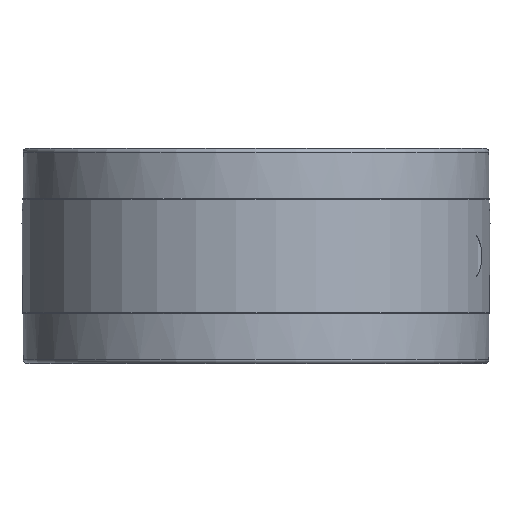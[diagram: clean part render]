
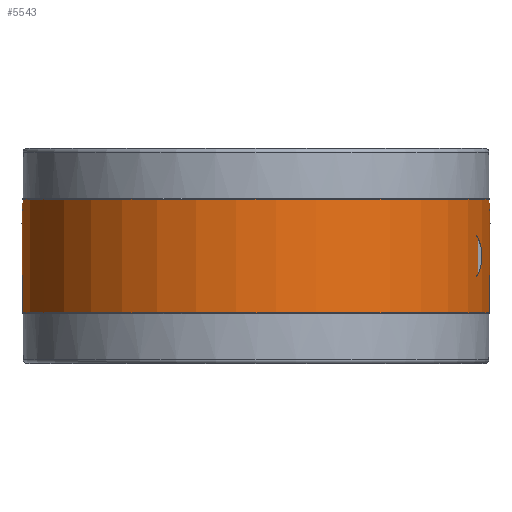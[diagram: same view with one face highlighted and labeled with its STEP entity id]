
A CAD part, front view. The second image highlights one B-rep face of the part: STEP entity #5543.
In plain terms, the highlighted cylindrical face has radius 65.3 mm (diameter 130.6 mm), a partial arc.
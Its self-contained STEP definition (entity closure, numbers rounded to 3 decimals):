
#5144=CYLINDRICAL_SURFACE('',#25206,65.3);
#5500=ELLIPSE('',#25198,130.6,65.3);
#5501=ELLIPSE('',#25200,130.6,65.3);
#5502=ELLIPSE('',#25201,130.6,65.3);
#5503=ELLIPSE('',#25203,130.6,65.3);
#5543=ADVANCED_FACE('',(#10987,#10988,#10989),#5144,.T.);
#7987=LINE('',#33795,#9473);
#7988=LINE('',#33800,#9474);
#9473=VECTOR('',#27472,1.);
#9474=VECTOR('',#27475,1.);
#10987=FACE_BOUND('',#11767,.T.);
#10988=FACE_BOUND('',#11768,.T.);
#10989=FACE_BOUND('',#11769,.T.);
#11767=EDGE_LOOP('',(#13537,#13538,#13539));
#11768=EDGE_LOOP('',(#13540,#13541,#13542));
#11769=EDGE_LOOP('',(#13543,#13544,#13545,#13546));
#13537=ORIENTED_EDGE('',*,*,#21371,.T.);
#13538=ORIENTED_EDGE('',*,*,#21372,.T.);
#13539=ORIENTED_EDGE('',*,*,#21373,.T.);
#13540=ORIENTED_EDGE('',*,*,#21374,.T.);
#13541=ORIENTED_EDGE('',*,*,#21375,.T.);
#13542=ORIENTED_EDGE('',*,*,#21376,.T.);
#13543=ORIENTED_EDGE('',*,*,#21377,.T.);
#13544=ORIENTED_EDGE('',*,*,#21378,.T.);
#13545=ORIENTED_EDGE('',*,*,#21379,.F.);
#13546=ORIENTED_EDGE('',*,*,#21380,.T.);
#19363=VERTEX_POINT('',#33784);
#19364=VERTEX_POINT('',#33785);
#19365=VERTEX_POINT('',#33787);
#19366=VERTEX_POINT('',#33790);
#19367=VERTEX_POINT('',#33791);
#19368=VERTEX_POINT('',#33793);
#19369=VERTEX_POINT('',#33796);
#19370=VERTEX_POINT('',#33797);
#19371=VERTEX_POINT('',#33799);
#19372=VERTEX_POINT('',#33801);
#21371=EDGE_CURVE('',#19363,#19364,#5500,.T.);
#21372=EDGE_CURVE('',#19364,#19365,#24246,.T.);
#21373=EDGE_CURVE('',#19365,#19363,#5501,.T.);
#21374=EDGE_CURVE('',#19366,#19367,#5502,.T.);
#21375=EDGE_CURVE('',#19367,#19368,#24247,.T.);
#21376=EDGE_CURVE('',#19368,#19366,#5503,.T.);
#21377=EDGE_CURVE('',#19369,#19370,#7987,.T.);
#21378=EDGE_CURVE('',#19370,#19371,#24248,.T.);
#21379=EDGE_CURVE('',#19372,#19371,#7988,.T.);
#21380=EDGE_CURVE('',#19372,#19369,#24249,.T.);
#24246=CIRCLE('',#25199,65.3);
#24247=CIRCLE('',#25202,65.3);
#24248=CIRCLE('',#25204,65.3);
#24249=CIRCLE('',#25205,65.3);
#25198=AXIS2_PLACEMENT_3D('',#33783,#27460,#27461);
#25199=AXIS2_PLACEMENT_3D('',#33786,#27462,#27463);
#25200=AXIS2_PLACEMENT_3D('',#33788,#27464,#27465);
#25201=AXIS2_PLACEMENT_3D('',#33789,#27466,#27467);
#25202=AXIS2_PLACEMENT_3D('',#33792,#27468,#27469);
#25203=AXIS2_PLACEMENT_3D('',#33794,#27470,#27471);
#25204=AXIS2_PLACEMENT_3D('',#33798,#27473,#27474);
#25205=AXIS2_PLACEMENT_3D('',#33802,#27476,#27477);
#25206=AXIS2_PLACEMENT_3D('',#33803,#27478,#27479);
#27460=DIRECTION('',(0.,0.866,-0.5));
#27461=DIRECTION('',(0.,-0.5,-0.866));
#27462=DIRECTION('',(0.,0.,1.));
#27463=DIRECTION('',(0.,-1.,0.));
#27464=DIRECTION('',(0.,-0.866,-0.5));
#27465=DIRECTION('',(0.,0.5,-0.866));
#27466=DIRECTION('',(0.,-0.866,-0.5));
#27467=DIRECTION('',(0.,0.5,-0.866));
#27468=DIRECTION('',(0.,0.,1.));
#27469=DIRECTION('',(0.,-1.,0.));
#27470=DIRECTION('',(0.,0.866,-0.5));
#27471=DIRECTION('',(0.,-0.5,-0.866));
#27472=DIRECTION('',(0.,0.,-1.));
#27473=DIRECTION('',(0.,0.,1.));
#27474=DIRECTION('',(1.,0.,0.));
#27475=DIRECTION('',(0.,0.,-1.));
#27476=DIRECTION('',(0.,0.,-1.));
#27477=DIRECTION('',(1.,0.,0.));
#27478=DIRECTION('',(0.,0.,-1.));
#27479=DIRECTION('',(-1.,0.,0.));
#33783=CARTESIAN_POINT('',(0.,0.,9.));
#33784=CARTESIAN_POINT('',(-65.3,0.,9.));
#33785=CARTESIAN_POINT('',(-65.259,2.309,13.));
#33786=CARTESIAN_POINT('',(0.,0.,13.));
#33787=CARTESIAN_POINT('',(-65.259,-2.309,13.));
#33788=CARTESIAN_POINT('',(0.,0.,9.));
#33789=CARTESIAN_POINT('',(0.,0.,9.));
#33790=CARTESIAN_POINT('',(65.3,0.,9.));
#33791=CARTESIAN_POINT('',(65.259,-2.309,13.));
#33792=CARTESIAN_POINT('',(0.,0.,13.));
#33793=CARTESIAN_POINT('',(65.259,2.309,13.));
#33794=CARTESIAN_POINT('',(0.,0.,9.));
#33795=CARTESIAN_POINT('',(-53.587,37.316,16.1));
#33796=CARTESIAN_POINT('',(-53.587,37.316,15.85));
#33797=CARTESIAN_POINT('',(-53.587,37.316,-15.85));
#33798=CARTESIAN_POINT('',(0.,0.,-15.85));
#33799=CARTESIAN_POINT('',(53.587,37.316,-15.85));
#33800=CARTESIAN_POINT('',(53.587,37.316,16.1));
#33801=CARTESIAN_POINT('',(53.587,37.316,15.85));
#33802=CARTESIAN_POINT('',(0.,0.,15.85));
#33803=CARTESIAN_POINT('',(0.,0.,16.1));
